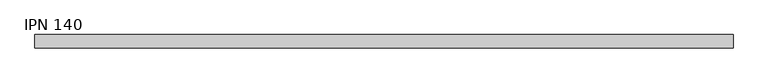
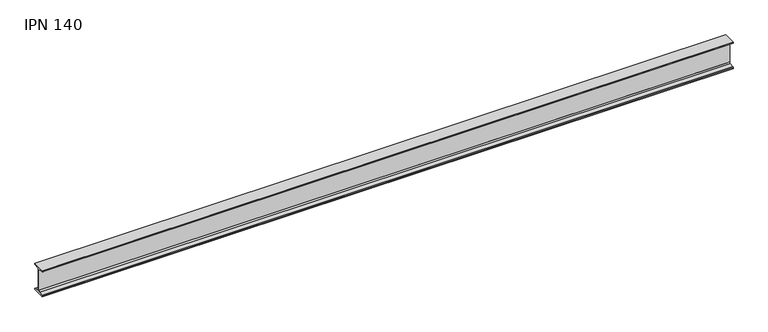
"""IFC4 building model written with IfcOpenShell, lengths in millimetres: beam geometry, IPN - Secciones en I con alas cónicas : IPN 140."""

from ifc_helpers import new_model, si_unit, point, frame, frame_2d, origin, place, context, project, spatial, polyline, circle_curve, trimmed, segment, composite_curve, outline, extrude, source, transform, mapped, element, save


def ipn_140_dce53db5(model_context):
    return source(origin(), model_context, "Body", "SweptSolid", [
        extrude(outline(composite_curve([segment(polyline([(33.0, 70.0), (33.0, 66.6671583)]), True, "CONTINUOUS"), segment(trimmed(circle_curve(frame_2d((29.6, 66.6671583)), 3.4), [point((33.0, 66.6671583))], [point((30.0714027, 63.2999964))], False, "CARTESIAN"), True, "CONTINUOUS"), segment(polyline([(30.0714027, 63.2999964), (7.7597073, 60.176359)]), True, "CONTINUOUS"), segment(trimmed(circle_curve(frame_2d((8.55, 54.5314111)), 5.7), [point((7.7597073, 60.176359))], [point((2.85, 54.5314111))], True, "CARTESIAN"), True, "CONTINUOUS"), segment(polyline([(2.85, 54.5314111), (2.85, -54.5314111)]), True, "CONTINUOUS"), segment(trimmed(circle_curve(frame_2d((8.55, -54.5314111)), 5.7), [point((2.85, -54.5314111))], [point((7.7597073, -60.176359))], True, "CARTESIAN"), True, "CONTINUOUS"), segment(polyline([(7.7597073, -60.176359), (30.0714027, -63.2999964)]), True, "CONTINUOUS"), segment(trimmed(circle_curve(frame_2d((29.6, -66.6671583)), 3.4), [point((30.0714027, -63.2999964))], [point((33.0, -66.6671583))], False, "CARTESIAN"), True, "CONTINUOUS"), segment(polyline([(33.0, -66.6671583), (33.0, -70.0), (-33.0, -70.0), (-33.0, -66.6671583)]), True, "CONTINUOUS"), segment(trimmed(circle_curve(frame_2d((-29.6, -66.6671583)), 3.4), [point((-33.0, -66.6671583))], [point((-30.0714027, -63.2999964))], False, "CARTESIAN"), True, "CONTINUOUS"), segment(polyline([(-30.0714027, -63.2999964), (-7.7597073, -60.176359)]), True, "CONTINUOUS"), segment(trimmed(circle_curve(frame_2d((-8.55, -54.5314111)), 5.7), [point((-7.7597073, -60.176359))], [point((-2.85, -54.5314111))], True, "CARTESIAN"), True, "CONTINUOUS"), segment(polyline([(-2.85, -54.5314111), (-2.85, 54.5314111)]), True, "CONTINUOUS"), segment(trimmed(circle_curve(frame_2d((-8.55, 54.5314111)), 5.7), [point((-2.85, 54.5314111))], [point((-7.7597073, 60.176359))], True, "CARTESIAN"), True, "CONTINUOUS"), segment(polyline([(-7.7597073, 60.176359), (-30.0714027, 63.2999964)]), True, "CONTINUOUS"), segment(trimmed(circle_curve(frame_2d((-29.6, 66.6671583)), 3.4), [point((-30.0714027, 63.2999964))], [point((-33.0, 66.6671583))], False, "CARTESIAN"), True, "CONTINUOUS"), segment(polyline([(-33.0, 66.6671583), (-33.0, 70.0), (33.0, 70.0)]), True, "CONTINUOUS")], self_intersect=False)), frame((-1740.0, 0.0, 0.0), z_axis=(1.0, 0.0, 0.0), x_axis=(0.0, 1.0, 0.0)), (0.0, 0.0, 1.0), 3495.0),
    ])


if __name__ == "__main__":
    model = new_model("IFC4")
    model_context = context("Model", 3, world=origin())
    ifc_project = project(units=[si_unit("LENGTHUNIT", "METRE", prefix="MILLI")], contexts=[model_context])
    site = spatial("IfcSite", under=ifc_project)
    building = spatial("IfcBuilding", under=site)
    placement = place(None, origin())
    ipn_140_shape = ipn_140_dce53db5(model_context)
    element("IfcBeam", 1, ObjectType="IPN - Secciones en I con alas cónicas : IPN 140", at=placement, inside=building, context=model_context, shape_type="MappedRepresentation", body=[
        mapped(ipn_140_shape, transform((0.0, 0.0, 0.0), x_axis=(1.0, 0.0, 0.0), y_axis=(0.0, 1.0, 0.0), z_axis=(0.0, 0.0, 1.0))),
    ])
    save(model, "model.ifc")
